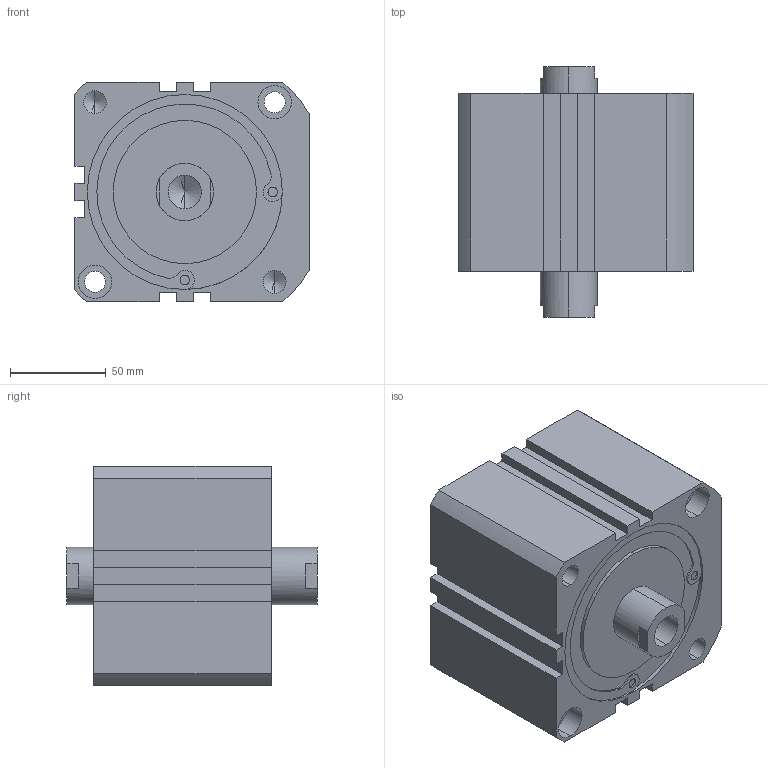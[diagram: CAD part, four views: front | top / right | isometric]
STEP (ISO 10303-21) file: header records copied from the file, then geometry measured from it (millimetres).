
FILE_DESCRIPTION (( 'STEP AP203' ), '1' );
FILE_NAME ('XG#7-100D-10.STEP', '2016-05-24T02:01:42', ( '' ), ( '' ), 'SwSTEP 2.0', 'SolidWorks 2014', '' );
FILE_SCHEMA (( 'CONFIG_CONTROL_DESIGN' ));
Length unit declared in the file: millimetre
Products named in the file (1): XG#7-100D-10
Bounding box: 122.5 x 131 x 115 mm (x, y, z)
Volume: 1216030.5 mm3; surface area: 97150 mm2
Topology: 1 solids, 1 shells, 142 faces, 354 edges, 222 vertices
Faces by surface type: cylinder 66, plane 56, cone 20
Entity records: 4237 total; most frequent: DIRECTION 774, CARTESIAN_POINT 703, ORIENTED_EDGE 676, EDGE_CURVE 338, AXIS2_PLACEMENT_3D 293, VERTEX_POINT 222, LINE 188, VECTOR 188
